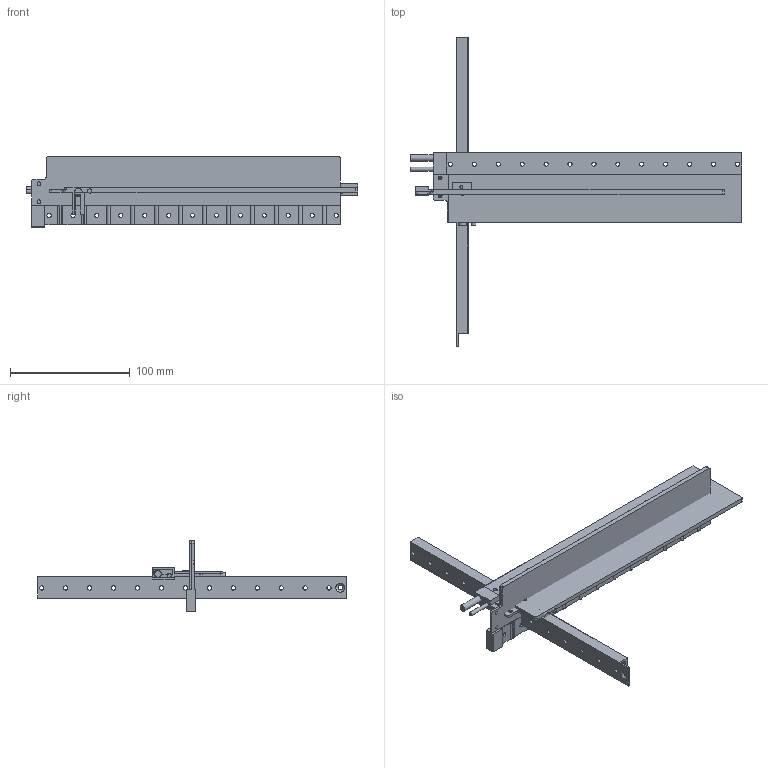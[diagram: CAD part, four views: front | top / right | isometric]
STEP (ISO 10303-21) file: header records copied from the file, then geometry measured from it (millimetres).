
FILE_DESCRIPTION( ( 'Unknown' ), '1' );
FILE_NAME( 'ML1612_01.stp', 'Unknown', ( 'Unknown' ), ( 'Unknown' ), 'XStep 1.0', 'Unknown', ' ' );
FILE_SCHEMA( ( 'CONFIG_CONTROL_DESIGN' ) );
Length unit declared in the file: millimetre
Products named in the file (9): Assem1; Giethars UM12; 4022 363 05292; 4022 363 40132; 4022 363 35011; Motorkabel; 2522 203 04024
Bounding box: 277 x 258 x 59.1 mm (x, y, z)
Volume: 172457.4 mm3; surface area: 114721.4 mm2
Topology: 16 solids, 16 shells, 428 faces, 1180 edges, 798 vertices
Faces by surface type: plane 226, cylinder 198, cone 4
Full cylindrical faces by diameter (mm): 1.6 x4, 2.5 x2, 3 x10, 3.2 x2, 3.5 x80, 5.5 x4, 6.2 x2
Entity records: 7035 total; most frequent: DIRECTION 1163, CARTESIAN_POINT 1120, ORIENTED_EDGE 1034, EDGE_CURVE 517, AXIS2_PLACEMENT_3D 423, VERTEX_POINT 380, EDGE_LOOP 361, LINE 317
